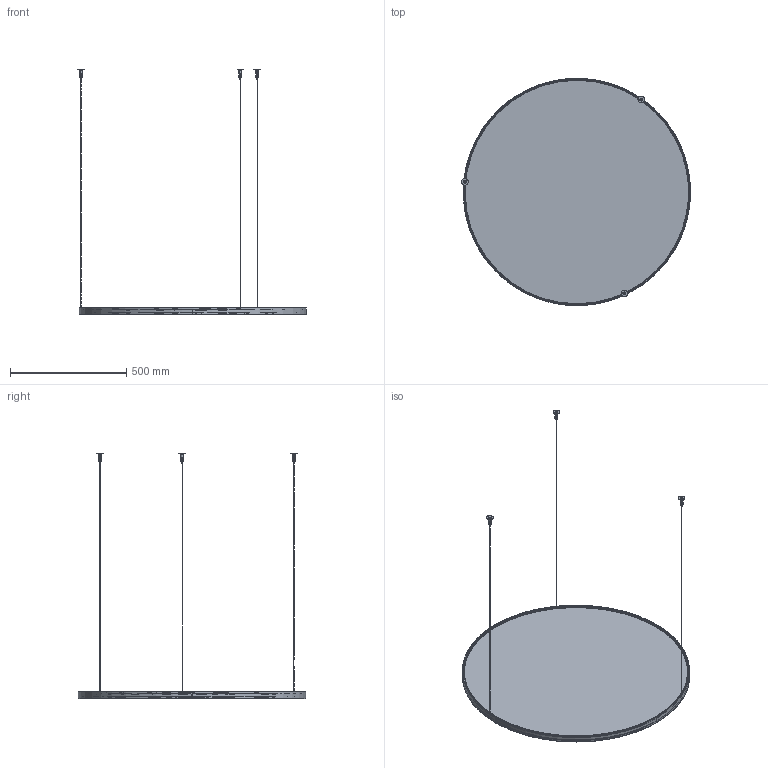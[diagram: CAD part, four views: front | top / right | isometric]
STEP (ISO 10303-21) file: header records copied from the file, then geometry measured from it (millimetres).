
FILE_DESCRIPTION(/* description */ (''),/* implementation_level */ '2;1');
FILE_NAME(/* name */ 'L045.100',/* time_stamp */ '2024-09-03T17:14:12+02:00',/* author */ (''),/* organization */ (''),/* preprocessor_version */ 'ST-DEVELOPER v16.5',/* originating_system */ '',/* authorisation */ '');
FILE_SCHEMA (('AUTOMOTIVE_DESIGN'));
Length unit declared in the file: millimetre
Products named in the file (11): Document; L045__.100.0099; 1800.0001001.00 (dispositivo sospensione meccanica singola M79D)_Volu
me; 5200.0003032.00 (manicotto fresato per sospensione singola OTTONE D 1
3mm H 32mm con foro M10x1)_5200.0003032.00; 5200.0002000.00 (dispositivo regolazione fune OTTONE nichelato con in
nesto maschio M10 L 14mm)_5200.0002000.00; 3200.0080000.00 (ranella foro M5 ACC D 29mm sp 2)_3201.0080000.00; 2100.0021000.00 (corpo Zero Round Acoustic D 977mm)_Volume per disegn
o; 5402.0001000.00 (fune ACC 19 fili D 1,2mm con cilindro terminale 3x3m
m)_Disegni; 3300.0099000.00 (profilo curvo Zero Round sospensione ALL 7,7x30mm D 
est. 977mm)_3306.0099360.00; 5401.0016000.00 (molla in nastro sagomata ACC INOX 5x31x5mm sp 0,4)_5
401.0016000.00; 3000.0013000.00 (pannello fonoassorbente FELTRO sp 11)_3001.0013100.0
0
Assembly tree (14 placements, depth 4):
  Document
    L045__.100.0099
      1800.0001001.00 (dispositivo sospensione meccanica singola M79D)_Volu
me  x3
        5200.0003032.00 (manicotto fresato per sospensione singola OTTONE D 1
3mm H 32mm con foro M10x1)_5200.0003032.00
        5200.0002000.00 (dispositivo regolazione fune OTTONE nichelato con in
nesto maschio M10 L 14mm)_5200.0002000.00
        3200.0080000.00 (ranella foro M5 ACC D 29mm sp 2)_3201.0080000.00
      2100.0021000.00 (corpo Zero Round Acoustic D 977mm)_Volume per disegn
o
        5402.0001000.00 (fune ACC 19 fili D 1,2mm con cilindro terminale 3x3m
m)_Disegni  x3
        3300.0099000.00 (profilo curvo Zero Round sospensione ALL 7,7x30mm D 
est. 977mm)_3306.0099360.00
        5401.0016000.00 (molla in nastro sagomata ACC INOX 5x31x5mm sp 0,4)_5
401.0016000.00
        3000.0013000.00 (pannello fonoassorbente FELTRO sp 11)_3001.0013100.0
0
Bounding box: 984.58 x 977 x 1057.45 mm (x, y, z)
Volume: 8546729 mm3; surface area: 1802574.1 mm2
Topology: 21 solids, 21 shells, 446 faces, 1083 edges, 679 vertices
Faces by surface type: bspline 336, plane 110
Entity records: 14477 total; most frequent: CARTESIAN_POINT 10677, ORIENTED_EDGE 1230, EDGE_CURVE 615, VERTEX_POINT 379, EDGE_LOOP 262, B_SPLINE_CURVE_WITH_KNOTS 251, ADVANCED_FACE 250, FACE_OUTER_BOUND 250
